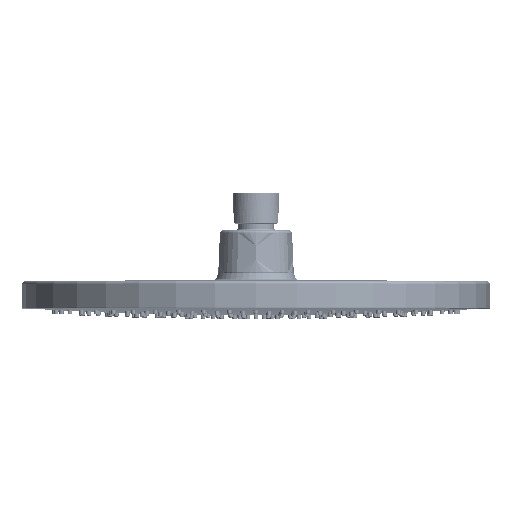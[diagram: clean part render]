
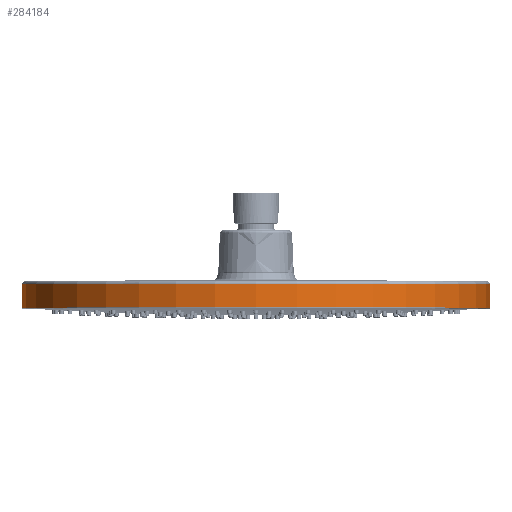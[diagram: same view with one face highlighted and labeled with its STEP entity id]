
A CAD part, top view. The second image highlights one B-rep face of the part: STEP entity #284184.
In plain terms, the highlighted conical face has half-angle 0.3 degrees and reference radius 114.967 mm.
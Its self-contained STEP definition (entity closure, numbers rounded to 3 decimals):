
#273063=CARTESIAN_POINT('',(0.,2.903,0.));
#273064=DIRECTION('',(0.,1.,0.));
#273065=DIRECTION('',(-1.,0.,0.));
#273066=AXIS2_PLACEMENT_3D('',#273063,#273064,#273065);
#273068=CARTESIAN_POINT('',(0.,14.392,0.));
#273069=DIRECTION('',(0.,-1.,0.));
#273070=DIRECTION('',(1.,0.,0.));
#273071=AXIS2_PLACEMENT_3D('',#273068,#273069,#273070);
#273088=DIRECTION('',(-0.005,1.,0.));
#273089=VECTOR('',#273088,11.489);
#273090=CARTESIAN_POINT('',(114.997,2.903,
0.));
#273091=LINE('',#273090,#273089);
#273097=DIRECTION('',(-0.005,-1.,0.));
#273098=VECTOR('',#273097,11.489);
#273099=CARTESIAN_POINT('',(-114.937,14.392,
0.));
#273100=LINE('',#273099,#273098);
#283893=CARTESIAN_POINT('',(-114.937,14.392,
0.));
#283894=CARTESIAN_POINT('',(114.937,14.392,0.));
#283895=VERTEX_POINT('',#283893);
#283896=VERTEX_POINT('',#283894);
#283901=CARTESIAN_POINT('',(114.997,2.903,0.));
#283902=CARTESIAN_POINT('',(-114.997,2.903,
0.));
#283903=VERTEX_POINT('',#283901);
#283904=VERTEX_POINT('',#283902);
#284170=CARTESIAN_POINT('',(0.,8.647,0.));
#284171=DIRECTION('',(0.,-1.,0.));
#284172=DIRECTION('',(-1.,0.,0.));
#284173=AXIS2_PLACEMENT_3D('',#284170,#284171,#284172);
#284174=CONICAL_SURFACE('',#284173,114.967,0.3);
#284176=ORIENTED_EDGE('',*,*,#284175,.F.);
#284178=ORIENTED_EDGE('',*,*,#284177,.F.);
#284179=ORIENTED_EDGE('',*,*,#284160,.F.);
#284181=ORIENTED_EDGE('',*,*,#284180,.F.);
#284182=EDGE_LOOP('',(#284176,#284178,#284179,#284181));
#284183=FACE_OUTER_BOUND('',#284182,.F.);
#284184=ADVANCED_FACE('',(#284183),#284174,.T.);
#273067=CIRCLE('',#273066,114.997);
#273072=CIRCLE('',#273071,114.937);
#284160=EDGE_CURVE('',#283896,#283895,#273072,.T.);
#284175=EDGE_CURVE('',#283904,#283903,#273067,.T.);
#284177=EDGE_CURVE('',#283895,#283904,#273100,.T.);
#284180=EDGE_CURVE('',#283903,#283896,#273091,.T.);
